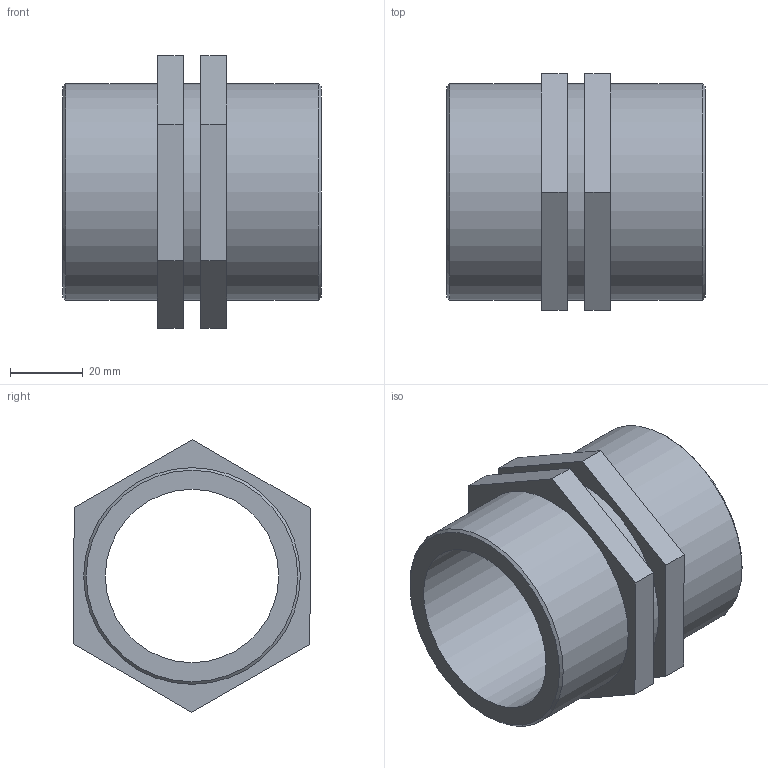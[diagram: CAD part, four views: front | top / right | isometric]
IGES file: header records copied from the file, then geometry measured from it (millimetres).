
Global section: file name: 050607020_0506070200A.ipt; native system: Autodesk Inventor 2015; preprocessor: unknown; author: KIM; date: 20170618.093259; units: millimetre
Bounding box: 71 x 65.11 x 75.06 mm (x, y, z)
Volume: 83571.2 mm3; surface area: 29796.4 mm2
Topology: 1 solids, 1 shells, 24 faces, 54 edges, 36 vertices
Faces by surface type: plane 18, cylinder 3, cone 2, revolution 1
Full cylindrical faces by diameter (mm): 59.614 x3
